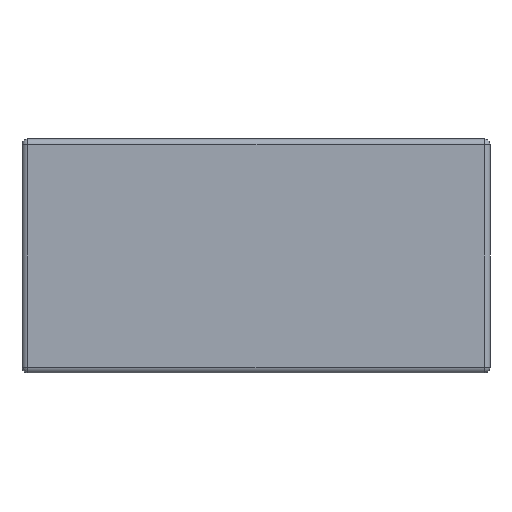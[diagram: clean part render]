
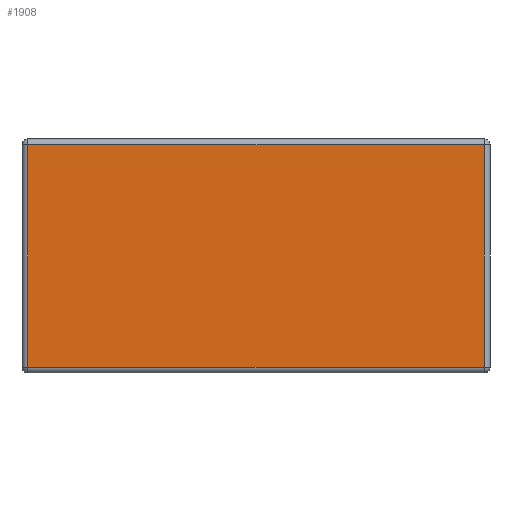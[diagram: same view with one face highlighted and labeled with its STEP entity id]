
A CAD part, front view. The second image highlights one B-rep face of the part: STEP entity #1908.
In plain terms, the highlighted planar face has unit normal (0, -1, 0).
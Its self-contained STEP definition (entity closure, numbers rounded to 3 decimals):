
#190=FACE_OUTER_BOUND('',#323,.T.);
#323=EDGE_LOOP('',(#1419,#1420,#1421,#1422));
#512=LINE('',#3110,#716);
#513=LINE('',#3112,#717);
#514=LINE('',#3114,#718);
#515=LINE('',#3115,#719);
#716=VECTOR('',#2473,1000.);
#717=VECTOR('',#2474,1000.);
#718=VECTOR('',#2475,1000.);
#719=VECTOR('',#2476,1000.);
#923=VERTEX_POINT('',#3108);
#924=VERTEX_POINT('',#3109);
#925=VERTEX_POINT('',#3111);
#926=VERTEX_POINT('',#3113);
#1104=EDGE_CURVE('',#923,#924,#512,.T.);
#1105=EDGE_CURVE('',#924,#925,#513,.T.);
#1106=EDGE_CURVE('',#925,#926,#514,.T.);
#1107=EDGE_CURVE('',#926,#923,#515,.T.);
#1419=ORIENTED_EDGE('',*,*,#1104,.T.);
#1420=ORIENTED_EDGE('',*,*,#1105,.T.);
#1421=ORIENTED_EDGE('',*,*,#1106,.T.);
#1422=ORIENTED_EDGE('',*,*,#1107,.T.);
#1824=PLANE('',#2099);
#1908=ADVANCED_FACE('',(#190),#1824,.F.);
#2099=AXIS2_PLACEMENT_3D('',#3107,#2471,#2472);
#2471=DIRECTION('center_axis',(0.,1.,0.));
#2472=DIRECTION('ref_axis',(0.,0.,1.));
#2473=DIRECTION('',(0.,0.,1.));
#2474=DIRECTION('',(-1.,0.,0.));
#2475=DIRECTION('',(0.,0.,-1.));
#2476=DIRECTION('',(1.,0.,0.));
#3107=CARTESIAN_POINT('Origin',(-40.,0.,20.));
#3108=CARTESIAN_POINT('',(39.,0.,-19.));
#3109=CARTESIAN_POINT('',(39.,0.,19.));
#3110=CARTESIAN_POINT('',(39.,0.,20.));
#3111=CARTESIAN_POINT('',(-39.,0.,19.));
#3112=CARTESIAN_POINT('',(-40.,0.,19.));
#3113=CARTESIAN_POINT('',(-39.,0.,-19.));
#3114=CARTESIAN_POINT('',(-39.,0.,20.));
#3115=CARTESIAN_POINT('',(-40.,0.,-19.));
